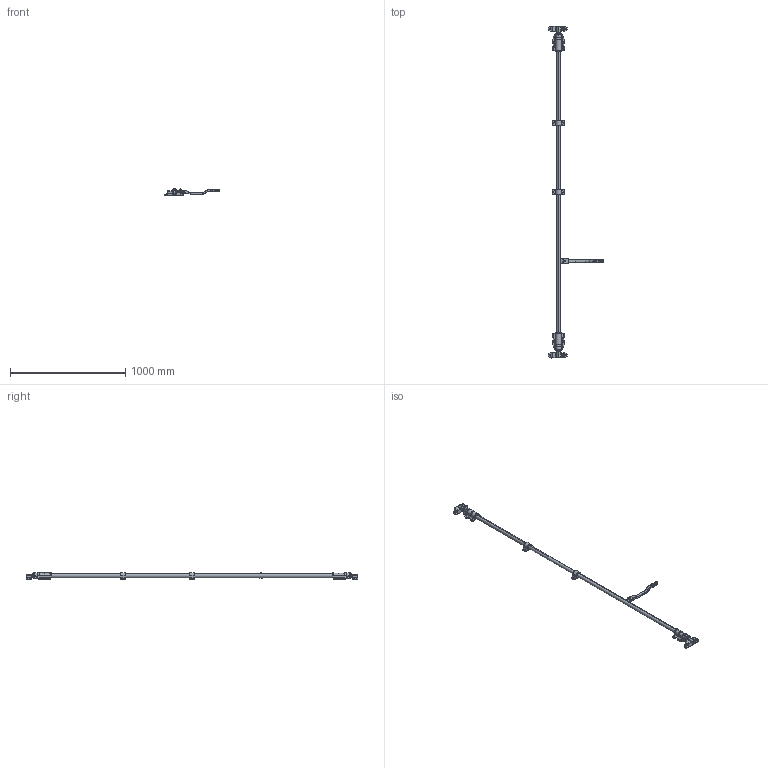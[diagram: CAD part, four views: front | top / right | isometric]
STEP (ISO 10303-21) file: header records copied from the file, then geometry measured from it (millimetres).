
FILE_DESCRIPTION (( 'STEP AP203' ), '1' );
FILE_NAME ('S4205856.STEP', '2014-03-04T07:54:37', ( 'SDS' ), ( 'SDS' ), 'SwSTEP 2.0', 'SolidWorks 2002296', '' );
FILE_SCHEMA (( 'CONFIG_CONTROL_DESIGN' ));
Length unit declared in the file: millimetre
Products named in the file (24): S4205856; S42058562_蹬怮椔; S42058563_蹬怮椔; S42058564_蹬怮椔; S42058565_蹬怮椔; S42058566_蹬怮椔; S42058567_蹬怮椔; S42058561_蹬怮椔; S420585612_蹬怮椔; S42058568_蹬怮椔; S42058569_蹬怮椔; S420585610_蹬怮椔; S420585611_蹬怮椔; S420585613_蹬怮椔; S420585614_蹬怮椔; S420585615_蹬怮椔; S420585616_蹬怮椔; S420585617_蹬怮椔; S420585618_蹬怮椔; S420585619_蹬怮椔; S420585620_蹬怮椔; S420585621_蹬怮椔; S420585622_蹬怮椔; S420585623_蹬怮椔
Assembly tree (23 placements, depth 2):
  S4205856
    S420585611_蹬怮椔
    S420585619_蹬怮椔
    S42058567_蹬怮椔
    S420585622_蹬怮椔
    S420585615_蹬怮椔
    S420585621_蹬怮椔
    S42058565_蹬怮椔
    S420585617_蹬怮椔
    S42058561_蹬怮椔
    S420585614_蹬怮椔
    S420585618_蹬怮椔
    S42058564_蹬怮椔
    S420585610_蹬怮椔
    S42058566_蹬怮椔
    S420585623_蹬怮椔
    S420585612_蹬怮椔
    S42058562_蹬怮椔
    S42058568_蹬怮椔
    S42058563_蹬怮椔
    S420585613_蹬怮椔
    S420585616_蹬怮椔
    S420585620_蹬怮椔
    S42058569_蹬怮椔
Bounding box: 481.98 x 2883 x 55.5 mm (x, y, z)
Volume: 1870852.6 mm3; surface area: 911204.1 mm2
Topology: 23 solids, 23 shells, 2019 faces, 4614 edges, 2650 vertices
Faces by surface type: cylinder 875, bspline 690, plane 418, cone 36
Entity records: 81814 total; most frequent: CARTESIAN_POINT 38369, ORIENTED_EDGE 9224, DIRECTION 7859, EDGE_CURVE 4612, AXIS2_PLACEMENT_3D 3031, VERTEX_POINT 2650, EDGE_LOOP 2076, ADVANCED_FACE 2019
